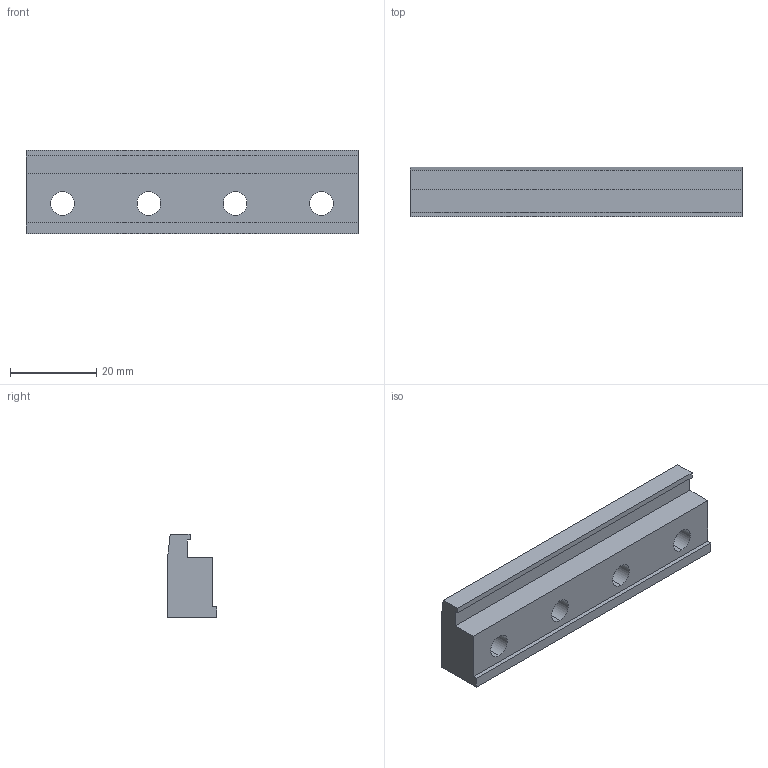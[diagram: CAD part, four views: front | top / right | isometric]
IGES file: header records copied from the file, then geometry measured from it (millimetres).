
Start section:  PTC IGES file: R037541026\r037541026.iges
Global section: file name: R037541026\r037541026.iges; native system: Creo Parametric by PTC Inc.; preprocessor: 2023092; author: THD3HC; organization: Unknown; date: 20240711.174756; units: millimetre
Bounding box: 77 x 11.5 x 19.3 mm (x, y, z)
Surface area: 6060.1 mm2 (no closed solid volume)
Topology: 0 solids, 0 shells, 33 faces, 162 edges, 162 vertices
Faces by surface type: bspline 17, revolution 16
